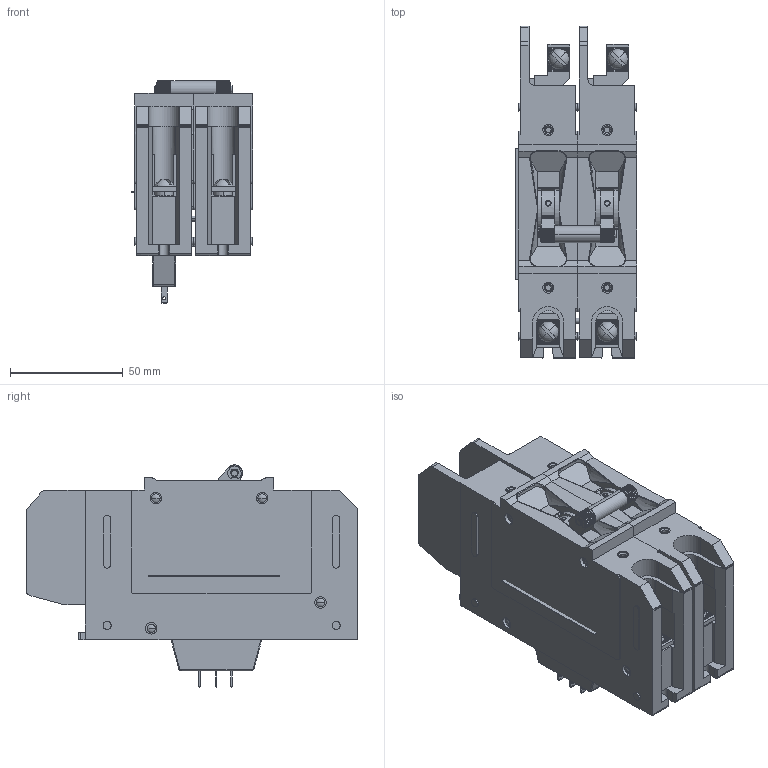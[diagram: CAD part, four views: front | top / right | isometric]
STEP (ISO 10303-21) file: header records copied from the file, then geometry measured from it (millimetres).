
FILE_DESCRIPTION((''),'2;1');
FILE_NAME('E_DRW_ASM','2017-01-18T',('SYSTEM'),(''),'PRO/ENGINEER BY PARAMETRIC TECHNOLOGY CORPORATION, 2015110','PRO/ENGINEER BY PARAMETRIC TECHNOLOGY CORPORATION, 2015110','');
FILE_SCHEMA(('AUTOMOTIVE_DESIGN { 1 0 10303 214 1 1 1 1 }'));
Length unit declared in the file: inch
Products named in the file (19): E-SHELL-AUX; E-ACTUATOR-C; 886-73552-004; 815-70413_CONTACT; 875-72244-002-SHOE-ARC; SCREW_FOR_BUS_TYPE_M6; 1_4_20_SCREW_LINE_ASM; 886-73551-004; 1_4_20_SCREW_LOAD_ASM; E-POLE-1-AUX_ASM; TIE-E-SERIES; E-SHELL-BLANK; E-POLE-BLANK_ASM; E-SERIES-HANDLE-ROD; E-HANDLE_ROD_EXT_RING; E-SPACER-HANDLE-BLACK; 001-E-SERIES-MASTER_ASM; PANEL_MOUNT; E_DRW_ASM
Assembly tree (26 placements, depth 5):
  E_DRW_ASM
    001-E-SERIES-MASTER_ASM
      E-POLE-1-AUX_ASM
        E-SHELL-AUX
        E-ACTUATOR-C
        1_4_20_SCREW_LINE_ASM
          886-73552-004
          815-70413_CONTACT
          875-72244-002-SHOE-ARC
          SCREW_FOR_BUS_TYPE_M6
        1_4_20_SCREW_LOAD_ASM
          886-73551-004
          SCREW_FOR_BUS_TYPE_M6
      TIE-E-SERIES  x4
      E-POLE-BLANK_ASM
        E-SHELL-BLANK
        E-ACTUATOR-C
        1_4_20_SCREW_LINE_ASM
          886-73552-004
          815-70413_CONTACT
          875-72244-002-SHOE-ARC
          SCREW_FOR_BUS_TYPE_M6
        1_4_20_SCREW_LOAD_ASM
          886-73551-004
          SCREW_FOR_BUS_TYPE_M6
      E-SERIES-HANDLE-ROD
      E-HANDLE_ROD_EXT_RING  x2
      E-SPACER-HANDLE-BLACK
    PANEL_MOUNT
Bounding box: 53.62 x 146.81 x 98.47 mm (x, y, z)
Volume: 408776.9 mm3; surface area: 90454.8 mm2
Topology: 30 solids, 38 shells, 2293 faces, 6014 edges, 3856 vertices
Faces by surface type: plane 1435, cylinder 564, cone 168, bspline 52, torus 40, sphere 34
Entity records: 64805 total; most frequent: CARTESIAN_POINT 12587, ORIENTED_EDGE 7712, DIRECTION 7459, EDGE_CURVE 3874, PRESENTATION_STYLE_ASSIGNMENT 3744, STYLED_ITEM 3532, CURVE_STYLE 3268, VECTOR 2705
